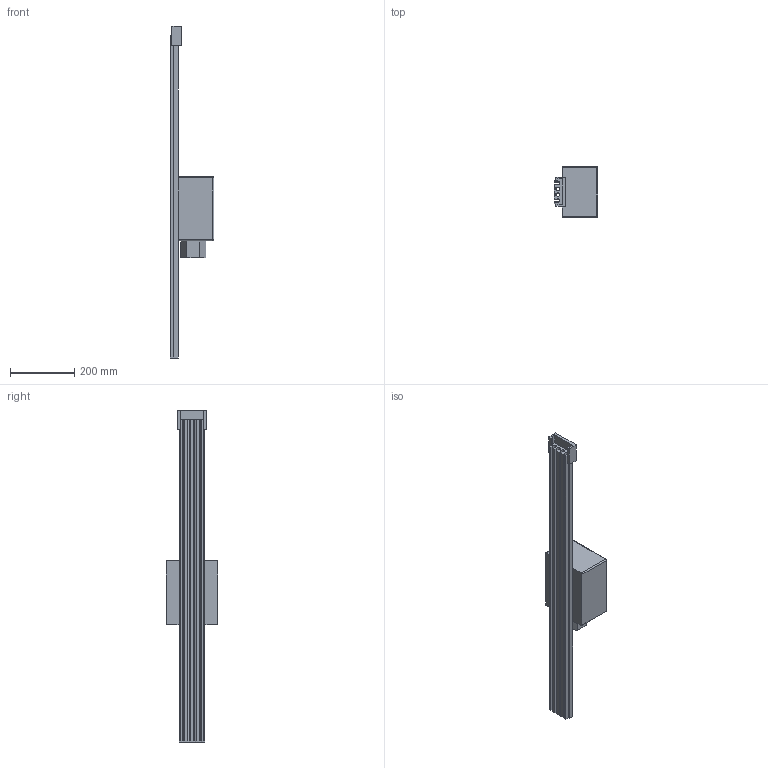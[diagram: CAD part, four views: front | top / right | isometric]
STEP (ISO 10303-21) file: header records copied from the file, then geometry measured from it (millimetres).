
FILE_DESCRIPTION (( 'STEP AP214' ), '1' );
FILE_NAME ('083152-460x12.STEP', '2013-01-17T08:38:24', ( '' ), ( '' ), 'SwSTEP 2.0', 'SolidWorks 2012', '' );
FILE_SCHEMA (( 'AUTOMOTIVE_DESIGN' ));
Length unit declared in the file: millimetre
Products named in the file (1): 083152-460x12
Bounding box: 136 x 160 x 1030 mm (x, y, z)
Volume: 5178342.9 mm3; surface area: 498573.9 mm2
Topology: 2 solids, 2 shells, 71 faces, 186 edges, 116 vertices
Faces by surface type: plane 51, cylinder 16, sphere 4
Entity records: 2691 total; most frequent: CARTESIAN_POINT 370, ORIENTED_EDGE 364, DIRECTION 358, EDGE_CURVE 182, LINE 150, VECTOR 150, VERTEX_POINT 116, AXIS2_PLACEMENT_3D 104
